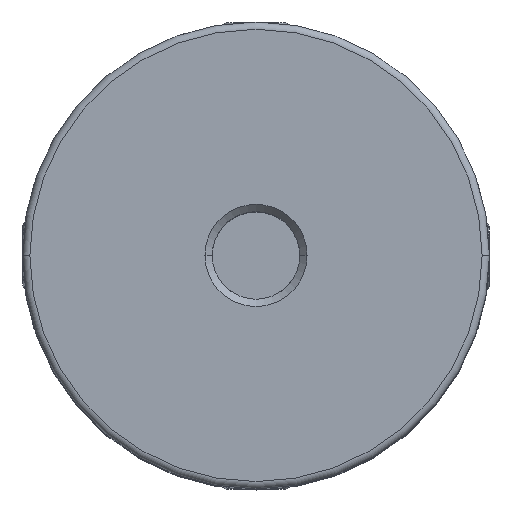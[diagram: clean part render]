
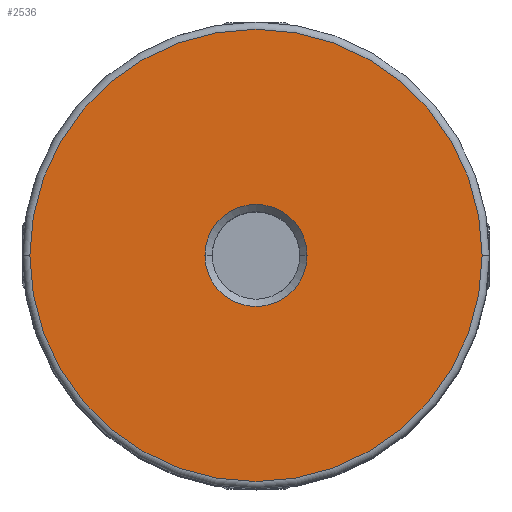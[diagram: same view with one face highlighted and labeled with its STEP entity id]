
A CAD part, top view. The second image highlights one B-rep face of the part: STEP entity #2536.
In plain terms, the highlighted planar face has unit normal (0, 0, 1).
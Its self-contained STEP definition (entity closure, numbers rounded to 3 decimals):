
#109 = EDGE_LOOP ( 'NONE', ( #1939, #1857 ) ) ;
#321 = EDGE_LOOP ( 'NONE', ( #1990, #2104 ) ) ;
#533 = VERTEX_POINT ( 'NONE', #2833 ) ;
#597 = VERTEX_POINT ( 'NONE', #2783 ) ;
#763 = VERTEX_POINT ( 'NONE', #3592 ) ;
#941 = VERTEX_POINT ( 'NONE', #4225 ) ;
#1719 = AXIS2_PLACEMENT_3D ( 'NONE', #6177, #6166, #6154 ) ;
#1720 = AXIS2_PLACEMENT_3D ( 'NONE', #6201, #6186, #6179 ) ;
#1857 = ORIENTED_EDGE ( 'NONE', *, *, #3290, .T. ) ;
#1939 = ORIENTED_EDGE ( 'NONE', *, *, #2213, .T. ) ;
#1990 = ORIENTED_EDGE ( 'NONE', *, *, #3289, .T. ) ;
#2104 = ORIENTED_EDGE ( 'NONE', *, *, #2224, .T. ) ;
#2213 = EDGE_CURVE ( 'NONE', #597, #763, #4841, .T. ) ;
#2224 = EDGE_CURVE ( 'NONE', #941, #533, #4892, .T. ) ;
#2399 = AXIS2_PLACEMENT_3D ( 'NONE', #2954, #3068, #3055 ) ;
#2536 = ADVANCED_FACE ( 'NONE', ( #5086, #5135 ), #3095, .F. ) ;
#2783 = CARTESIAN_POINT ( 'NONE',  ( 3.5, 0., 22.35 ) ) ;
#2833 = CARTESIAN_POINT ( 'NONE',  ( -15.5, 0., 22.35 ) ) ;
#2954 = CARTESIAN_POINT ( 'NONE',  ( 0., 0., 22.35 ) ) ;
#3055 = DIRECTION ( 'NONE',  ( -1., 0., 0. ) ) ;
#3068 = DIRECTION ( 'NONE',  ( 0., 0., -1. ) ) ;
#3095 = PLANE ( 'NONE',  #2399 ) ;
#3123 = AXIS2_PLACEMENT_3D ( 'NONE', #3933, #3927, #3925 ) ;
#3289 = EDGE_CURVE ( 'NONE', #533, #941, #3358, .T. ) ;
#3290 = EDGE_CURVE ( 'NONE', #763, #597, #3391, .T. ) ;
#3358 = CIRCLE ( 'NONE', #1720, 15.5 ) ;
#3391 = CIRCLE ( 'NONE', #1719, 3.5 ) ;
#3592 = CARTESIAN_POINT ( 'NONE',  ( -3.5, 0., 22.35 ) ) ;
#3813 = DIRECTION ( 'NONE',  ( -1., 0., 0. ) ) ;
#3817 = DIRECTION ( 'NONE',  ( 0., 0., 1. ) ) ;
#3818 = CARTESIAN_POINT ( 'NONE',  ( 0., 0., 22.35 ) ) ;
#3925 = DIRECTION ( 'NONE',  ( 0., 1., 0. ) ) ;
#3927 = DIRECTION ( 'NONE',  ( 0., 0., -1. ) ) ;
#3933 = CARTESIAN_POINT ( 'NONE',  ( 0., 0., 22.35 ) ) ;
#4225 = CARTESIAN_POINT ( 'NONE',  ( 15.5, 0., 22.35 ) ) ;
#4841 = CIRCLE ( 'NONE', #3123, 3.5 ) ;
#4892 = CIRCLE ( 'NONE', #5583, 15.5 ) ;
#5086 = FACE_BOUND ( 'NONE', #109, .T. ) ;
#5135 = FACE_OUTER_BOUND ( 'NONE', #321, .T. ) ;
#5583 = AXIS2_PLACEMENT_3D ( 'NONE', #3818, #3817, #3813 ) ;
#6154 = DIRECTION ( 'NONE',  ( 0., 1., 0. ) ) ;
#6166 = DIRECTION ( 'NONE',  ( 0., 0., -1. ) ) ;
#6177 = CARTESIAN_POINT ( 'NONE',  ( 0., 0., 22.35 ) ) ;
#6179 = DIRECTION ( 'NONE',  ( -1., 0., 0. ) ) ;
#6186 = DIRECTION ( 'NONE',  ( 0., 0., 1. ) ) ;
#6201 = CARTESIAN_POINT ( 'NONE',  ( 0., 0., 22.35 ) ) ;
